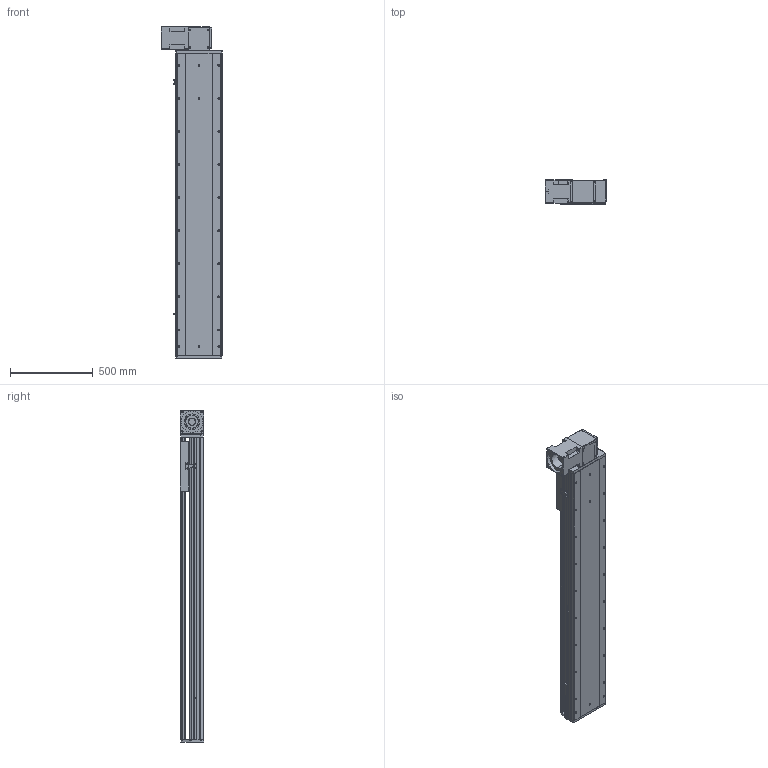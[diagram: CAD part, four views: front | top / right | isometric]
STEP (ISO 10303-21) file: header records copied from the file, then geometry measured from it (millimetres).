
FILE_DESCRIPTION (( 'STEP AP214' ), '1' );
FILE_NAME ('RTB28R-XX-1400-BR-M100-XX-C4.STEP', '2025-12-22T01:12:51', ( '' ), ( '' ), 'SwSTEP 2.0', 'SolidWorks 2018', '' );
FILE_SCHEMA (( 'AUTOMOTIVE_DESIGN' ));
Length unit declared in the file: millimetre
Products named in the file (4): RTB28R-XX-1400-BR-M100-XX-C4; RTB28S-GY-008^RTB28R-XX-XX-BR-M100-XX-C4; RTB28S-GY-004^RTB28R-XX-XX-BR-M100-XX-C4; RTB28S-GY-011^RTB28R-XX-XX-BR-M100-XX-C4
Assembly tree (3 placements, depth 2):
  RTB28R-XX-1400-BR-M100-XX-C4
    RTB28S-GY-011^RTB28R-XX-XX-BR-M100-XX-C4
    RTB28S-GY-004^RTB28R-XX-XX-BR-M100-XX-C4
    RTB28S-GY-008^RTB28R-XX-XX-BR-M100-XX-C4
Bounding box: 370 x 145 x 2007 mm (x, y, z)
Volume: 35910750.8 mm3; surface area: 3430470 mm2
Topology: 3 solids, 4 shells, 1008 faces, 2670 edges, 1716 vertices
Faces by surface type: plane 460, cylinder 377, bspline 87, cone 80, torus 4
Entity records: 43174 total; most frequent: CARTESIAN_POINT 11545, ORIENTED_EDGE 5276, DIRECTION 5130, EDGE_CURVE 2638, AXIS2_PLACEMENT_3D 1769, VERTEX_POINT 1716, VECTOR 1592, LINE 1592
